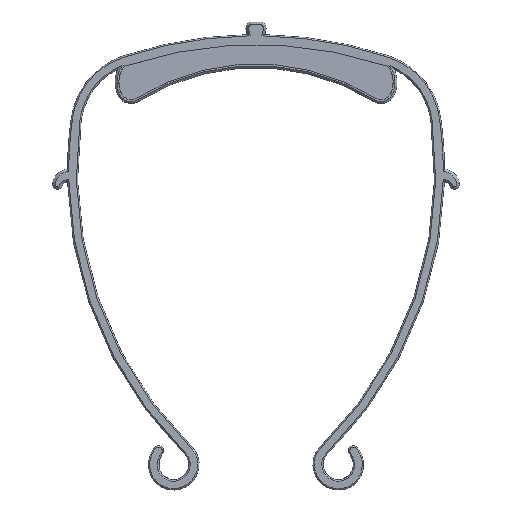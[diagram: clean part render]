
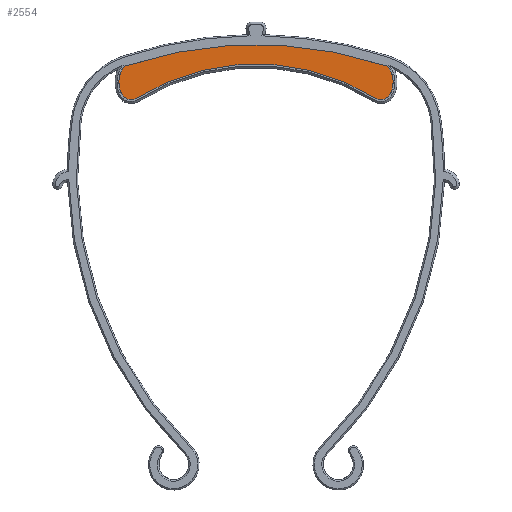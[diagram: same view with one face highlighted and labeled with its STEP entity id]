
A CAD part, top view. The second image highlights one B-rep face of the part: STEP entity #2554.
In plain terms, the highlighted planar face has unit normal (0, 0, 1).
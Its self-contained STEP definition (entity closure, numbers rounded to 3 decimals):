
#265=CARTESIAN_POINT('',(43.214,-6.717,10.6));
#266=DIRECTION('',(0.,0.,-1.));
#267=DIRECTION('',(0.316,0.949,0.));
#268=AXIS2_PLACEMENT_3D('',#265,#266,#267);
#292=CARTESIAN_POINT('',(-43.182,-6.717,10.6));
#293=DIRECTION('',(0.,0.,1.));
#294=DIRECTION('',(-0.316,0.949,0.));
#295=AXIS2_PLACEMENT_3D('',#292,#293,#294);
#319=CARTESIAN_POINT('',(-47.389,5.316,10.6));
#320=CARTESIAN_POINT('',(-48.436,4.659,10.6));
#321=CARTESIAN_POINT('',(-50.913,4.554,10.6));
#322=CARTESIAN_POINT('',(-53.018,6.351,10.6));
#323=CARTESIAN_POINT('',(-54.589,9.841,10.6));
#324=CARTESIAN_POINT('',(-54.36,14.63,10.6));
#325=CARTESIAN_POINT('',(-52.767,17.315,10.6));
#326=CARTESIAN_POINT('',(-52.042,18.011,10.6));
#327=CARTESIAN_POINT('',(-51.948,18.094,10.6));
#333=CARTESIAN_POINT('',(0.016,-70.194,10.6));
#334=DIRECTION('',(0.,0.,1.));
#335=DIRECTION('',(0.532,0.847,0.));
#336=AXIS2_PLACEMENT_3D('',#333,#334,#335);
#338=CARTESIAN_POINT('',(47.421,5.316,10.6));
#339=CARTESIAN_POINT('',(48.468,4.659,10.6));
#340=CARTESIAN_POINT('',(50.945,4.554,10.6));
#341=CARTESIAN_POINT('',(53.05,6.351,10.6));
#342=CARTESIAN_POINT('',(54.621,9.842,10.6));
#343=CARTESIAN_POINT('',(54.392,14.63,10.6));
#344=CARTESIAN_POINT('',(52.799,17.315,10.6));
#345=CARTESIAN_POINT('',(52.074,18.011,10.6));
#346=CARTESIAN_POINT('',(51.98,18.094,10.6));
#626=CARTESIAN_POINT('',(0.016,-136.397,10.6));
#627=DIRECTION('',(0.,0.,1.));
#628=DIRECTION('',(0.316,0.949,0.));
#629=AXIS2_PLACEMENT_3D('',#626,#627,#628);
#2117=CARTESIAN_POINT('',(-51.499,18.248,10.6));
#2118=CARTESIAN_POINT('',(-51.948,18.094,10.6));
#2119=VERTEX_POINT('',#2117);
#2120=VERTEX_POINT('',#2118);
#2121=CARTESIAN_POINT('',(51.531,18.248,10.6));
#2122=VERTEX_POINT('',#2121);
#2123=CARTESIAN_POINT('',(51.98,18.094,10.6));
#2124=VERTEX_POINT('',#2123);
#2125=CARTESIAN_POINT('',(47.421,5.316,10.6));
#2126=CARTESIAN_POINT('',(-47.389,5.316,10.6));
#2127=VERTEX_POINT('',#2125);
#2128=VERTEX_POINT('',#2126);
#2536=CARTESIAN_POINT('',(0.,0.,10.6));
#2537=DIRECTION('',(0.,0.,1.));
#2538=DIRECTION('',(1.,0.,0.));
#2539=AXIS2_PLACEMENT_3D('',#2536,#2537,#2538);
#2540=PLANE('',#2539);
#2542=ORIENTED_EDGE('',*,*,#2541,.F.);
#2544=ORIENTED_EDGE('',*,*,#2543,.F.);
#2545=ORIENTED_EDGE('',*,*,#2506,.T.);
#2547=ORIENTED_EDGE('',*,*,#2546,.F.);
#2549=ORIENTED_EDGE('',*,*,#2548,.T.);
#2551=ORIENTED_EDGE('',*,*,#2550,.T.);
#2552=EDGE_LOOP('',(#2542,#2544,#2545,#2547,#2549,#2551));
#2553=FACE_OUTER_BOUND('',#2552,.F.);
#2554=ADVANCED_FACE('',(#2553),#2540,.T.);
#269=CIRCLE('',#268,26.314);
#296=CIRCLE('',#295,26.314);
#328=B_SPLINE_CURVE_WITH_KNOTS('',3,(#319,#320,#321,#322,#323,#324,#325,#326,
#327),.UNSPECIFIED.,.F.,.F.,(4,1,1,1,1,1,4),(0.,0.229,
0.372,0.514,0.823,0.978,1.),
.UNSPECIFIED.);
#337=CIRCLE('',#336,89.157);
#347=B_SPLINE_CURVE_WITH_KNOTS('',3,(#338,#339,#340,#341,#342,#343,#344,#345,
#346),.UNSPECIFIED.,.F.,.F.,(4,1,1,1,1,1,4),(0.,0.229,
0.372,0.514,0.823,0.978,1.),
.UNSPECIFIED.);
#630=CIRCLE('',#629,163.);
#2506=EDGE_CURVE('',#2122,#2124,#269,.T.);
#2541=EDGE_CURVE('',#2119,#2120,#296,.T.);
#2543=EDGE_CURVE('',#2122,#2119,#630,.T.);
#2546=EDGE_CURVE('',#2127,#2124,#347,.T.);
#2548=EDGE_CURVE('',#2127,#2128,#337,.T.);
#2550=EDGE_CURVE('',#2128,#2120,#328,.T.);
